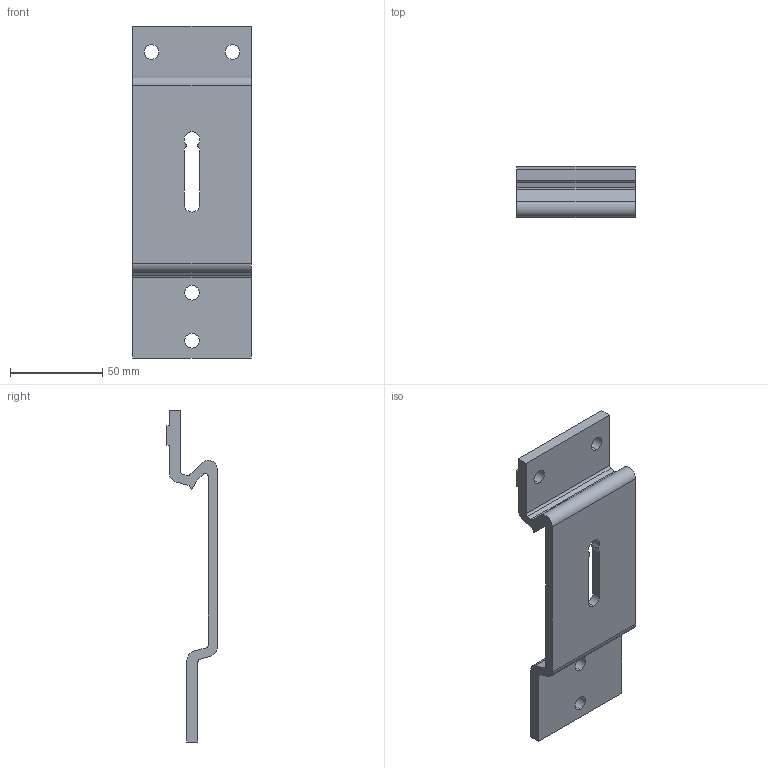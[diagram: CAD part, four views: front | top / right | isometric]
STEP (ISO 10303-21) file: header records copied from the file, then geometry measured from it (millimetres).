
FILE_DESCRIPTION (( 'STEP AP214' ), '1' );
FILE_NAME ('FAVBS 60K FA.step', '2017-04-05T08:00:04', ( '' ), ( '' ), 'SwSTEP 2.0', 'SolidWorks 2015', '' );
FILE_SCHEMA (( 'AUTOMOTIVE_DESIGN' ));
Length unit declared in the file: millimetre
Products named in the file (1): FAVBS 60K FA
Bounding box: 64 x 27.5 x 180 mm (x, y, z)
Volume: 72966 mm3; surface area: 30985.2 mm2
Topology: 1 solids, 1 shells, 48 faces, 138 edges, 92 vertices
Faces by surface type: cylinder 24, plane 24
Entity records: 1644 total; most frequent: DIRECTION 284, CARTESIAN_POINT 279, ORIENTED_EDGE 276, EDGE_CURVE 138, AXIS2_PLACEMENT_3D 97, VERTEX_POINT 92, VECTOR 90, LINE 90
